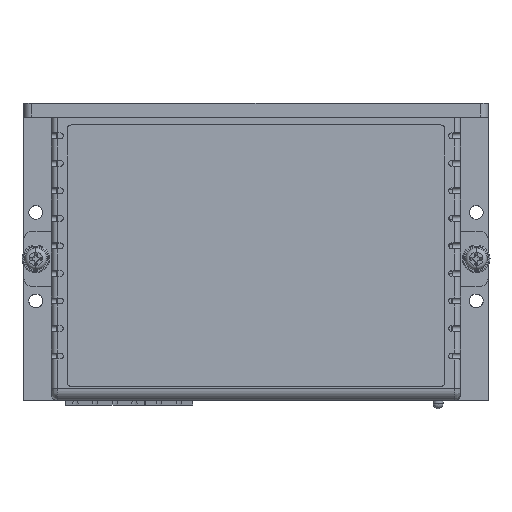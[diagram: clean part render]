
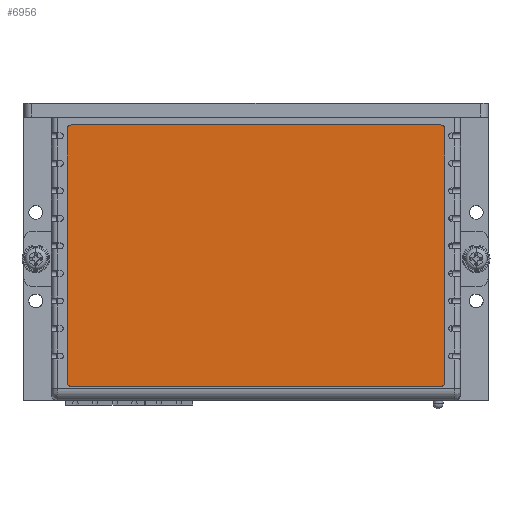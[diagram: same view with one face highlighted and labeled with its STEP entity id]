
A CAD part, top view. The second image highlights one B-rep face of the part: STEP entity #6956.
In plain terms, the highlighted planar face has unit normal (0, 0, 1).
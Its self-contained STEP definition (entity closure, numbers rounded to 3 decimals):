
#6864=CARTESIAN_POINT('',(-47.,3.5,21.8));
#6865=VERTEX_POINT('',#6864);
#6873=CARTESIAN_POINT('',(47.,3.5,21.8));
#6874=VERTEX_POINT('',#6873);
#6881=CARTESIAN_POINT('',(47.,3.5,21.8));
#6882=DIRECTION('',(-1.,0.,0.));
#6883=VECTOR('',#6882,94.);
#6884=LINE('',#6881,#6883);
#6885=EDGE_CURVE('',#6874,#6865,#6884,.T.);
#6890=CARTESIAN_POINT('',(0.,-1.5,21.8));
#6891=DIRECTION('',(1.,0.,0.));
#6892=DIRECTION('',(0.,0.,1.));
#6893=AXIS2_PLACEMENT_3D('',#6890,#6892,#6891);
#6894=PLANE('',#6893);
#6895=CARTESIAN_POINT('',(-48.,69.,21.8));
#6896=VERTEX_POINT('',#6895);
#6897=CARTESIAN_POINT('',(-48.,4.5,21.8));
#6898=VERTEX_POINT('',#6897);
#6899=CARTESIAN_POINT('',(-48.,69.,21.8));
#6900=DIRECTION('',(0.,-1.,0.));
#6901=VECTOR('',#6900,64.5);
#6902=LINE('',#6899,#6901);
#6903=EDGE_CURVE('',#6896,#6898,#6902,.T.);
#6904=ORIENTED_EDGE('E631',*,*,#6903,.T.);
#6905=CARTESIAN_POINT('',(-47.,4.5,21.8));
#6906=DIRECTION('',(-1.,0.,0.));
#6907=DIRECTION('',(-0.,0.,1.));
#6908=AXIS2_PLACEMENT_3D('',#6905,#6907,#6906);
#6909=CIRCLE('',#6908,1.);
#6910=EDGE_CURVE('',#6898,#6865,#6909,.T.);
#6911=ORIENTED_EDGE('E632',*,*,#6910,.T.);
#6912=ORIENTED_EDGE('E632',*,*,#6885,.F.);
#6913=CARTESIAN_POINT('',(48.,4.5,21.8));
#6914=VERTEX_POINT('',#6913);
#6915=CARTESIAN_POINT('',(47.,4.5,21.8));
#6916=DIRECTION('',(0.,-1.,0.));
#6917=DIRECTION('',(0.,-0.,1.));
#6918=AXIS2_PLACEMENT_3D('',#6915,#6917,#6916);
#6919=CIRCLE('',#6918,1.);
#6920=EDGE_CURVE('',#6874,#6914,#6919,.T.);
#6921=ORIENTED_EDGE('E633',*,*,#6920,.T.);
#6922=CARTESIAN_POINT('',(48.,69.,21.8));
#6923=VERTEX_POINT('',#6922);
#6924=CARTESIAN_POINT('',(48.,4.5,21.8));
#6925=DIRECTION('',(0.,1.,0.));
#6926=VECTOR('',#6925,64.5);
#6927=LINE('',#6924,#6926);
#6928=EDGE_CURVE('',#6914,#6923,#6927,.T.);
#6929=ORIENTED_EDGE('E634',*,*,#6928,.T.);
#6930=CARTESIAN_POINT('',(47.,70.,21.8));
#6931=VERTEX_POINT('',#6930);
#6932=CARTESIAN_POINT('',(47.,69.,21.8));
#6933=DIRECTION('',(1.,0.,0.));
#6934=DIRECTION('',(0.,0.,1.));
#6935=AXIS2_PLACEMENT_3D('',#6932,#6934,#6933);
#6936=CIRCLE('',#6935,1.);
#6937=EDGE_CURVE('',#6923,#6931,#6936,.T.);
#6938=ORIENTED_EDGE('E635',*,*,#6937,.T.);
#6939=CARTESIAN_POINT('',(-47.,70.,21.8));
#6940=VERTEX_POINT('',#6939);
#6941=CARTESIAN_POINT('',(47.,70.,21.8));
#6942=DIRECTION('',(-1.,0.,0.));
#6943=VECTOR('',#6942,94.);
#6944=LINE('',#6941,#6943);
#6945=EDGE_CURVE('',#6931,#6940,#6944,.T.);
#6946=ORIENTED_EDGE('E636',*,*,#6945,.T.);
#6947=CARTESIAN_POINT('',(-47.,69.,21.8));
#6948=DIRECTION('',(0.,1.,0.));
#6949=DIRECTION('',(0.,0.,1.));
#6950=AXIS2_PLACEMENT_3D('',#6947,#6949,#6948);
#6951=CIRCLE('',#6950,1.);
#6952=EDGE_CURVE('',#6940,#6896,#6951,.T.);
#6953=ORIENTED_EDGE('E637',*,*,#6952,.T.);
#6954=EDGE_LOOP('',(#6904,#6911,#6912,#6921,#6929,#6938,#6946,#6953));
#6955=FACE_OUTER_BOUND('',#6954,.T.);
#6956=ADVANCED_FACE('F170',(#6955),#6894,.T.);
